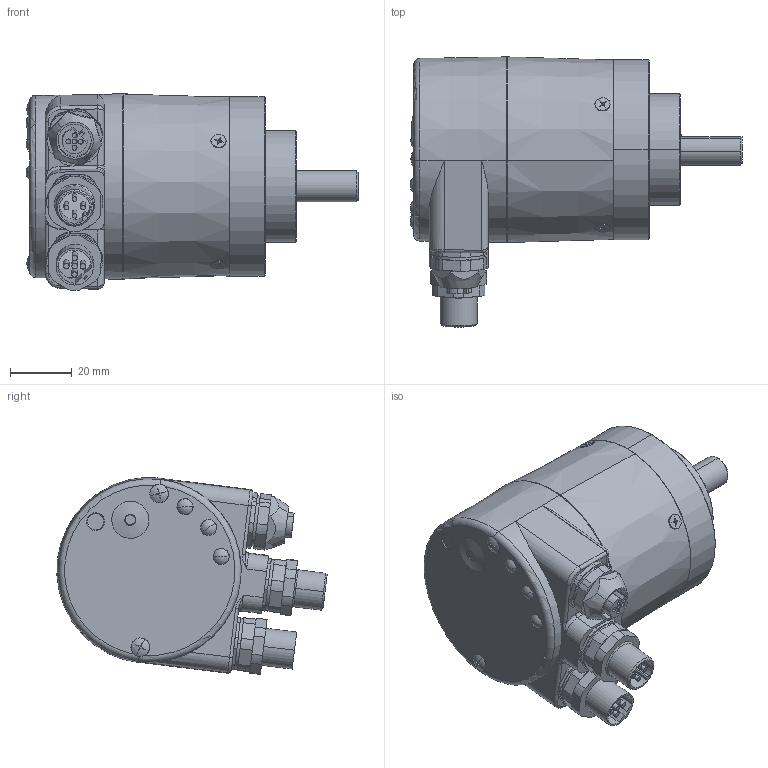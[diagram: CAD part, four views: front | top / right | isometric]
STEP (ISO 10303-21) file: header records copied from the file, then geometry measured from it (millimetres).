
FILE_DESCRIPTION (( 'STEP AP214' ), '1' );
FILE_NAME ('5868.1232.XXXX.STEP', '2008-06-12T09:24:50', ( 'admin' ), ( 'Fritz Kübler GmbH' ), 'SwSTEP 2.0', 'SolidWorks 2007', '' );
FILE_SCHEMA (( 'AUTOMOTIVE_DESIGN' ));
Length unit declared in the file: millimetre
Products named in the file (1): 5868.1232.XXXX
Bounding box: 107.15 x 87.2 x 63.55 mm (x, y, z)
Surface area: 30032.1 mm2 (no closed solid volume)
Topology: 0 solids, 26 shells, 460 faces, 1189 edges, 760 vertices
Faces by surface type: plane 200, cylinder 175, cone 50, torus 15, sphere 11, bspline 9
Entity records: 19658 total; most frequent: CARTESIAN_POINT 3207, DIRECTION 2539, ORIENTED_EDGE 2171, EDGE_CURVE 1184, AXIS2_PLACEMENT_3D 948, VERTEX_POINT 760, LINE 643, VECTOR 643
